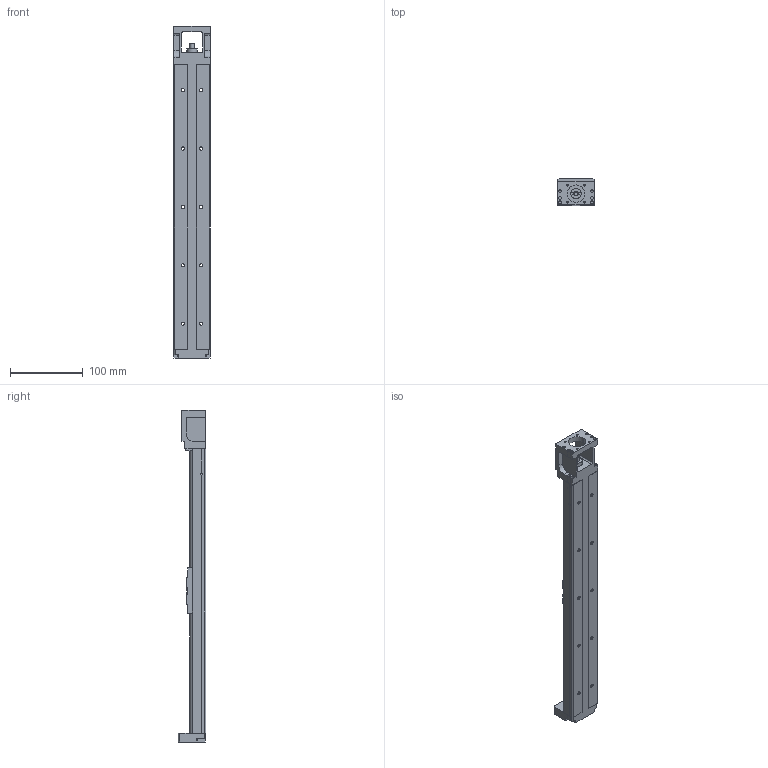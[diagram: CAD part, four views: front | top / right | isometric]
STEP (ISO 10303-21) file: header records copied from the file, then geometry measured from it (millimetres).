
FILE_DESCRIPTION (( 'STEP AP214' ), '1' );
FILE_NAME ('GSX50-300-LL1205-P7.STEP', '2013-11-02T01:40:19', ( '微软用户' ), ( '微软中国' ), 'SwSTEP 2.0', 'SolidWorks 2010', '' );
FILE_SCHEMA (( 'AUTOMOTIVE_DESIGN' ));
Length unit declared in the file: millimetre
Products named in the file (1): GSX50-300-LL1205-P7
Bounding box: 50 x 38 x 455 mm (x, y, z)
Volume: 305851.4 mm3; surface area: 103953.3 mm2
Topology: 1 solids, 1 shells, 329 faces, 859 edges, 542 vertices
Faces by surface type: cylinder 163, plane 130, cone 36
Entity records: 10531 total; most frequent: DIRECTION 1811, CARTESIAN_POINT 1751, ORIENTED_EDGE 1654, EDGE_CURVE 827, AXIS2_PLACEMENT_3D 666, VERTEX_POINT 542, VECTOR 479, LINE 479
